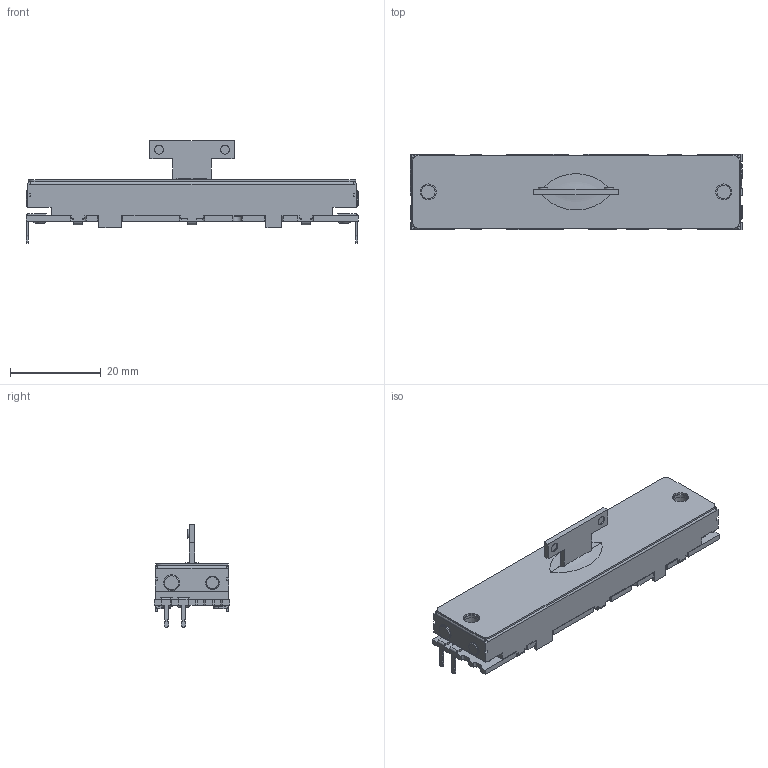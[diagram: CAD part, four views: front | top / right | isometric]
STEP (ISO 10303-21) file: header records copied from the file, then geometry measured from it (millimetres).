
FILE_DESCRIPTION(('FreeCAD Model'),'2;1');
FILE_NAME('Open CASCADE Shape Model','2025-07-06T19:16:37',(''),(''), 'Open CASCADE STEP processor 7.8','FreeCAD','Unknown');
FILE_SCHEMA(('AUTOMOTIVE_DESIGN { 1 0 10303 214 1 1 1 1 }'));
Length unit declared in the file: millimetre
Products named in the file (1): LSVA-450XD
Bounding box: 73 x 16.5 x 22.6 mm (x, y, z)
Volume: 10314.3 mm3; surface area: 5578.6 mm2
Topology: 1 solids, 4 shells, 461 faces, 1257 edges, 820 vertices
Faces by surface type: plane 315, cylinder 127, cone 7, extrusion 6, revolution 3, torus 3
Full cylindrical faces by diameter (mm): 0.5 x3, 1.5 x3, 1.7 x8, 2 x4, 3 x4, 3.5 x4, 4 x2
Entity records: 18487 total; most frequent: CARTESIAN_POINT 3367, ORIENTED_EDGE 2522, DIRECTION 2434, EDGE_CURVE 1257, VECTOR 937, LINE 931, VERTEX_POINT 817, AXIS2_PLACEMENT_3D 747
